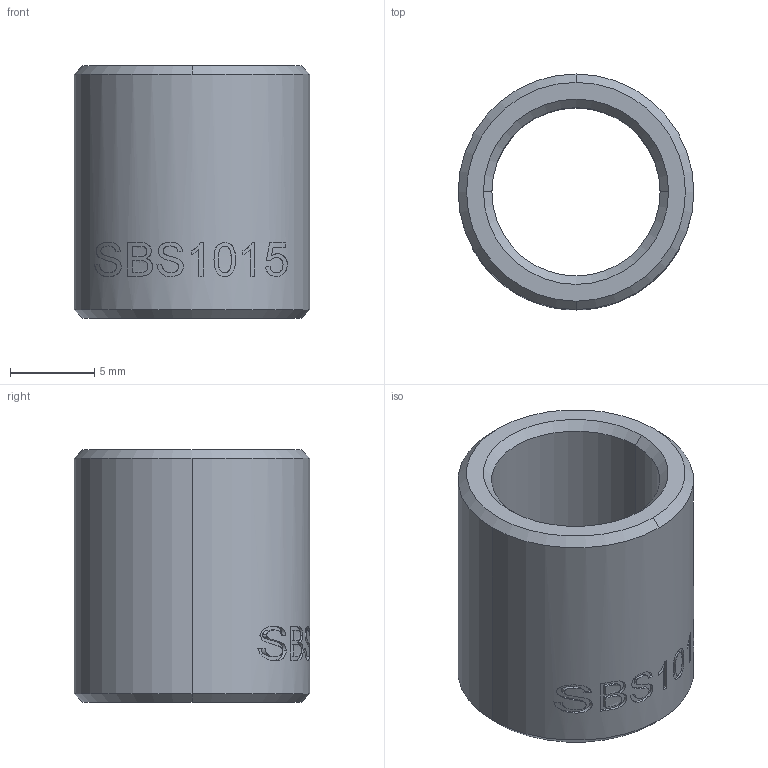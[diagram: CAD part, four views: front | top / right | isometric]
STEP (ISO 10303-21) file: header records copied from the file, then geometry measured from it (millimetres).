
FILE_DESCRIPTION (( 'STEP AP203' ), '1' );
FILE_NAME ('SBS1015_10mm_Rod_Bushing.STEP', '2021-01-12T17:28:05', ( '' ), ( '' ), 'SwSTEP 2.0', 'SolidWorks 2020', '' );
FILE_SCHEMA (( 'CONFIG_CONTROL_DESIGN' ));
Length unit declared in the file: millimetre
Products named in the file (1): SBS1015_10mm_Rod_Bushing
Bounding box: 14 x 14 x 15 mm (x, y, z)
Volume: 1110.7 mm3; surface area: 1249.3 mm2
Topology: 1 solids, 1 shells, 115 faces, 305 edges, 202 vertices
Faces by surface type: bspline 61, plane 32, cylinder 14, cone 8
Entity records: 6232 total; most frequent: CARTESIAN_POINT 3686, ORIENTED_EDGE 610, DIRECTION 337, EDGE_CURVE 305, VERTEX_POINT 202, EDGE_LOOP 127, VECTOR 123, LINE 123
